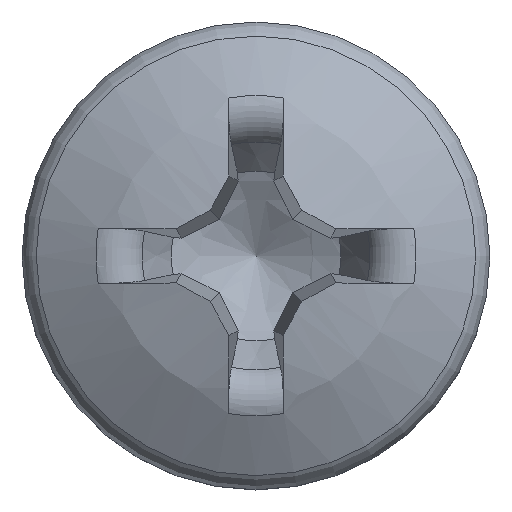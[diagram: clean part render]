
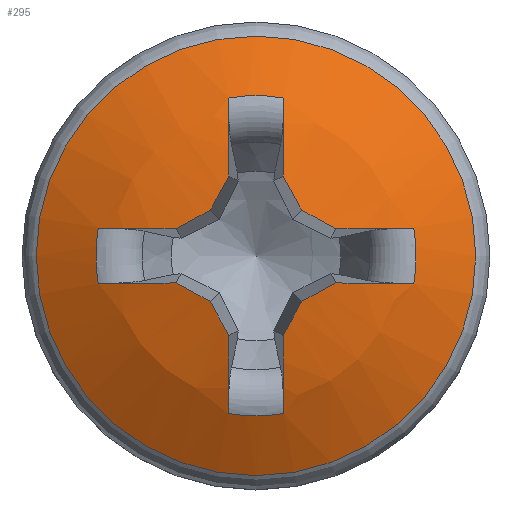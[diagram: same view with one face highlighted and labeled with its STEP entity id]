
A CAD part, top view. The second image highlights one B-rep face of the part: STEP entity #295.
In plain terms, the highlighted spherical face has radius 9.043 mm.
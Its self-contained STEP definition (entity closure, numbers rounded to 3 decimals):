
#258=SPHERICAL_SURFACE('',#1618,9.043);
#269=FACE_BOUND('',#490,.T.);
#270=FACE_BOUND('',#491,.T.);
#295=ADVANCED_FACE('',(#269,#270),#258,.T.);
#490=EDGE_LOOP('',(#671));
#491=EDGE_LOOP('',(#672,#673,#674,#675,#676,#677,#678,#679,#680,#681,#682,
#683,#684,#685,#686,#687,#688,#689,#690,#691));
#598=CIRCLE('',#1597,4.932);
#599=CIRCLE('',#1598,9.04);
#600=CIRCLE('',#1599,3.596);
#601=CIRCLE('',#1600,9.04);
#602=CIRCLE('',#1601,9.03);
#603=CIRCLE('',#1602,9.03);
#604=CIRCLE('',#1603,9.04);
#605=CIRCLE('',#1604,3.596);
#606=CIRCLE('',#1605,9.04);
#607=CIRCLE('',#1606,9.03);
#608=CIRCLE('',#1607,9.03);
#609=CIRCLE('',#1608,9.04);
#610=CIRCLE('',#1609,3.596);
#611=CIRCLE('',#1610,9.04);
#612=CIRCLE('',#1611,9.03);
#613=CIRCLE('',#1612,9.03);
#614=CIRCLE('',#1613,9.04);
#615=CIRCLE('',#1614,3.596);
#616=CIRCLE('',#1615,9.04);
#617=CIRCLE('',#1616,9.03);
#618=CIRCLE('',#1617,9.03);
#671=ORIENTED_EDGE('',*,*,#1273,.T.);
#672=ORIENTED_EDGE('',*,*,#1274,.F.);
#673=ORIENTED_EDGE('',*,*,#1275,.T.);
#674=ORIENTED_EDGE('',*,*,#1276,.F.);
#675=ORIENTED_EDGE('',*,*,#1277,.F.);
#676=ORIENTED_EDGE('',*,*,#1278,.F.);
#677=ORIENTED_EDGE('',*,*,#1279,.F.);
#678=ORIENTED_EDGE('',*,*,#1280,.T.);
#679=ORIENTED_EDGE('',*,*,#1281,.F.);
#680=ORIENTED_EDGE('',*,*,#1282,.F.);
#681=ORIENTED_EDGE('',*,*,#1283,.F.);
#682=ORIENTED_EDGE('',*,*,#1284,.F.);
#683=ORIENTED_EDGE('',*,*,#1285,.T.);
#684=ORIENTED_EDGE('',*,*,#1286,.F.);
#685=ORIENTED_EDGE('',*,*,#1287,.F.);
#686=ORIENTED_EDGE('',*,*,#1288,.F.);
#687=ORIENTED_EDGE('',*,*,#1289,.F.);
#688=ORIENTED_EDGE('',*,*,#1290,.T.);
#689=ORIENTED_EDGE('',*,*,#1291,.F.);
#690=ORIENTED_EDGE('',*,*,#1292,.F.);
#691=ORIENTED_EDGE('',*,*,#1293,.F.);
#1129=VERTEX_POINT('',#3262);
#1130=VERTEX_POINT('',#3264);
#1131=VERTEX_POINT('',#3265);
#1132=VERTEX_POINT('',#3267);
#1133=VERTEX_POINT('',#3269);
#1134=VERTEX_POINT('',#3271);
#1135=VERTEX_POINT('',#3273);
#1136=VERTEX_POINT('',#3275);
#1137=VERTEX_POINT('',#3277);
#1138=VERTEX_POINT('',#3279);
#1139=VERTEX_POINT('',#3281);
#1140=VERTEX_POINT('',#3283);
#1141=VERTEX_POINT('',#3285);
#1142=VERTEX_POINT('',#3287);
#1143=VERTEX_POINT('',#3289);
#1144=VERTEX_POINT('',#3291);
#1145=VERTEX_POINT('',#3293);
#1146=VERTEX_POINT('',#3295);
#1147=VERTEX_POINT('',#3297);
#1148=VERTEX_POINT('',#3299);
#1149=VERTEX_POINT('',#3301);
#1273=EDGE_CURVE('',#1129,#1129,#598,.T.);
#1274=EDGE_CURVE('',#1130,#1131,#599,.T.);
#1275=EDGE_CURVE('',#1130,#1132,#600,.T.);
#1276=EDGE_CURVE('',#1133,#1132,#601,.T.);
#1277=EDGE_CURVE('',#1134,#1133,#602,.T.);
#1278=EDGE_CURVE('',#1135,#1134,#603,.T.);
#1279=EDGE_CURVE('',#1136,#1135,#604,.T.);
#1280=EDGE_CURVE('',#1136,#1137,#605,.T.);
#1281=EDGE_CURVE('',#1138,#1137,#606,.T.);
#1282=EDGE_CURVE('',#1139,#1138,#607,.T.);
#1283=EDGE_CURVE('',#1140,#1139,#608,.T.);
#1284=EDGE_CURVE('',#1141,#1140,#609,.T.);
#1285=EDGE_CURVE('',#1141,#1142,#610,.T.);
#1286=EDGE_CURVE('',#1143,#1142,#611,.T.);
#1287=EDGE_CURVE('',#1144,#1143,#612,.T.);
#1288=EDGE_CURVE('',#1145,#1144,#613,.T.);
#1289=EDGE_CURVE('',#1146,#1145,#614,.T.);
#1290=EDGE_CURVE('',#1146,#1147,#615,.T.);
#1291=EDGE_CURVE('',#1148,#1147,#616,.T.);
#1292=EDGE_CURVE('',#1149,#1148,#617,.T.);
#1293=EDGE_CURVE('',#1131,#1149,#618,.T.);
#1597=AXIS2_PLACEMENT_3D('',#3261,#1682,#1683);
#1598=AXIS2_PLACEMENT_3D('',#3263,#1684,#1685);
#1599=AXIS2_PLACEMENT_3D('',#3266,#1686,#1687);
#1600=AXIS2_PLACEMENT_3D('',#3268,#1688,#1689);
#1601=AXIS2_PLACEMENT_3D('',#3270,#1690,#1691);
#1602=AXIS2_PLACEMENT_3D('',#3272,#1692,#1693);
#1603=AXIS2_PLACEMENT_3D('',#3274,#1694,#1695);
#1604=AXIS2_PLACEMENT_3D('',#3276,#1696,#1697);
#1605=AXIS2_PLACEMENT_3D('',#3278,#1698,#1699);
#1606=AXIS2_PLACEMENT_3D('',#3280,#1700,#1701);
#1607=AXIS2_PLACEMENT_3D('',#3282,#1702,#1703);
#1608=AXIS2_PLACEMENT_3D('',#3284,#1704,#1705);
#1609=AXIS2_PLACEMENT_3D('',#3286,#1706,#1707);
#1610=AXIS2_PLACEMENT_3D('',#3288,#1708,#1709);
#1611=AXIS2_PLACEMENT_3D('',#3290,#1710,#1711);
#1612=AXIS2_PLACEMENT_3D('',#3292,#1712,#1713);
#1613=AXIS2_PLACEMENT_3D('',#3294,#1714,#1715);
#1614=AXIS2_PLACEMENT_3D('',#3296,#1716,#1717);
#1615=AXIS2_PLACEMENT_3D('',#3298,#1718,#1719);
#1616=AXIS2_PLACEMENT_3D('',#3300,#1720,#1721);
#1617=AXIS2_PLACEMENT_3D('',#3302,#1722,#1723);
#1618=AXIS2_PLACEMENT_3D('',#3303,#1724,#1725);
#1682=DIRECTION('',(0.,0.,1.));
#1683=DIRECTION('',(-1.,0.,0.));
#1684=DIRECTION('',(-0.996,-0.035,0.087));
#1685=DIRECTION('',(0.087,0.,0.996));
#1686=DIRECTION('',(0.,0.,-1.));
#1687=DIRECTION('',(-1.,0.,0.));
#1688=DIRECTION('',(0.996,-0.035,0.087));
#1689=DIRECTION('',(0.087,0.,-0.996));
#1690=DIRECTION('',(0.879,0.467,0.1));
#1691=DIRECTION('',(-0.469,0.883,0.));
#1692=DIRECTION('',(0.467,0.879,0.1));
#1693=DIRECTION('',(-0.883,0.469,0.));
#1694=DIRECTION('',(-0.035,0.996,0.087));
#1695=DIRECTION('',(0.,-0.087,0.996));
#1696=DIRECTION('',(0.,0.,-1.));
#1697=DIRECTION('',(-1.,0.,0.));
#1698=DIRECTION('',(-0.035,-0.996,0.087));
#1699=DIRECTION('',(0.,-0.087,-0.996));
#1700=DIRECTION('',(0.467,-0.879,0.1));
#1701=DIRECTION('',(0.883,0.469,0.));
#1702=DIRECTION('',(0.879,-0.467,0.1));
#1703=DIRECTION('',(0.469,0.883,0.));
#1704=DIRECTION('',(0.996,0.035,0.087));
#1705=DIRECTION('',(0.087,0.,-0.996));
#1706=DIRECTION('',(0.,0.,-1.));
#1707=DIRECTION('',(-1.,0.,0.));
#1708=DIRECTION('',(-0.996,0.035,0.087));
#1709=DIRECTION('',(0.087,0.,0.996));
#1710=DIRECTION('',(-0.879,-0.467,0.1));
#1711=DIRECTION('',(0.469,-0.883,0.));
#1712=DIRECTION('',(-0.467,-0.879,0.1));
#1713=DIRECTION('',(0.883,-0.469,0.));
#1714=DIRECTION('',(0.035,-0.996,0.087));
#1715=DIRECTION('',(0.,-0.087,-0.996));
#1716=DIRECTION('',(0.,0.,-1.));
#1717=DIRECTION('',(-1.,0.,0.));
#1718=DIRECTION('',(0.035,0.996,0.087));
#1719=DIRECTION('',(0.,-0.087,0.996));
#1720=DIRECTION('',(-0.467,0.879,0.1));
#1721=DIRECTION('',(-0.883,-0.469,0.));
#1722=DIRECTION('',(-0.879,0.467,0.1));
#1723=DIRECTION('',(-0.469,-0.883,0.));
#1724=DIRECTION('',(0.,0.,1.));
#1725=DIRECTION('',(0.,1.,0.));
#3261=CARTESIAN_POINT('',(0.,0.,2.737));
#3262=CARTESIAN_POINT('',(-4.932,0.,2.737));
#3263=CARTESIAN_POINT('',(-0.226,-0.008,-4.823));
#3264=CARTESIAN_POINT('',(0.622,-3.542,3.454));
#3265=CARTESIAN_POINT('',(0.609,-1.79,4.));
#3266=CARTESIAN_POINT('',(0.,0.,3.454));
#3267=CARTESIAN_POINT('',(-0.622,-3.542,3.454));
#3268=CARTESIAN_POINT('',(0.226,-0.008,-4.823));
#3269=CARTESIAN_POINT('',(-0.609,-1.79,4.));
#3270=CARTESIAN_POINT('',(-0.426,-0.227,-4.892));
#3271=CARTESIAN_POINT('',(-1.025,-1.025,4.083));
#3272=CARTESIAN_POINT('',(-0.227,-0.426,-4.892));
#3273=CARTESIAN_POINT('',(-1.79,-0.609,4.));
#3274=CARTESIAN_POINT('',(-0.008,0.226,-4.823));
#3275=CARTESIAN_POINT('',(-3.542,-0.622,3.454));
#3276=CARTESIAN_POINT('',(0.,0.,3.454));
#3277=CARTESIAN_POINT('',(-3.542,0.622,3.454));
#3278=CARTESIAN_POINT('',(-0.008,-0.226,-4.823));
#3279=CARTESIAN_POINT('',(-1.79,0.609,4.));
#3280=CARTESIAN_POINT('',(-0.227,0.426,-4.892));
#3281=CARTESIAN_POINT('',(-1.025,1.025,4.083));
#3282=CARTESIAN_POINT('',(-0.426,0.227,-4.892));
#3283=CARTESIAN_POINT('',(-0.609,1.79,4.));
#3284=CARTESIAN_POINT('',(0.226,0.008,-4.823));
#3285=CARTESIAN_POINT('',(-0.622,3.542,3.454));
#3286=CARTESIAN_POINT('',(0.,0.,3.454));
#3287=CARTESIAN_POINT('',(0.622,3.542,3.454));
#3288=CARTESIAN_POINT('',(-0.226,0.008,-4.823));
#3289=CARTESIAN_POINT('',(0.609,1.79,4.));
#3290=CARTESIAN_POINT('',(0.426,0.227,-4.892));
#3291=CARTESIAN_POINT('',(1.025,1.025,4.083));
#3292=CARTESIAN_POINT('',(0.227,0.426,-4.892));
#3293=CARTESIAN_POINT('',(1.79,0.609,4.));
#3294=CARTESIAN_POINT('',(0.008,-0.226,-4.823));
#3295=CARTESIAN_POINT('',(3.542,0.622,3.454));
#3296=CARTESIAN_POINT('',(0.,0.,3.454));
#3297=CARTESIAN_POINT('',(3.542,-0.622,3.454));
#3298=CARTESIAN_POINT('',(0.008,0.226,-4.823));
#3299=CARTESIAN_POINT('',(1.79,-0.609,4.));
#3300=CARTESIAN_POINT('',(0.227,-0.426,-4.892));
#3301=CARTESIAN_POINT('',(1.025,-1.025,4.083));
#3302=CARTESIAN_POINT('',(0.426,-0.227,-4.892));
#3303=CARTESIAN_POINT('',(0.,0.,-4.843));
